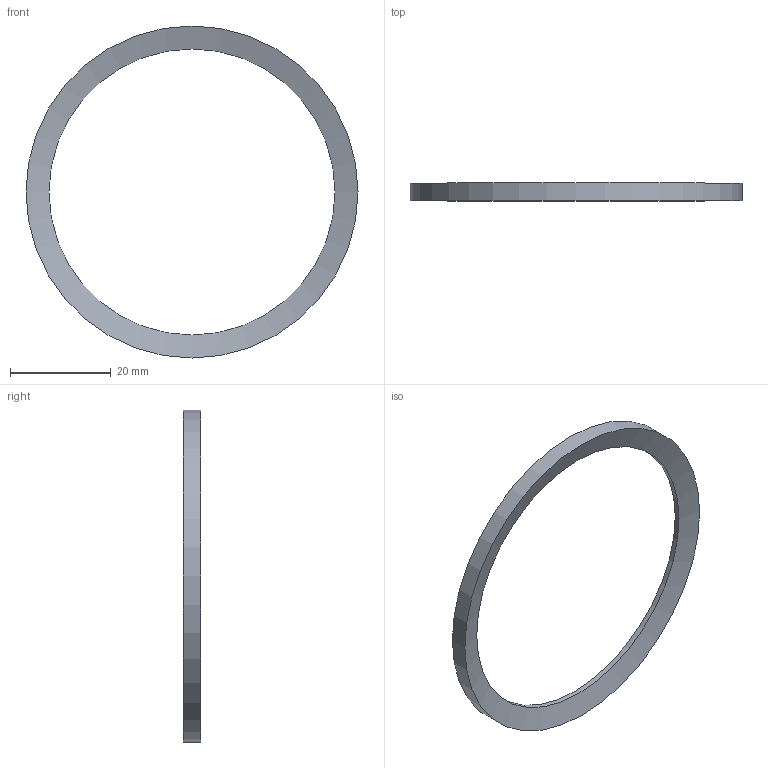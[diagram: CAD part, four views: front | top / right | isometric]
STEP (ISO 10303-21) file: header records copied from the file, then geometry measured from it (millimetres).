
FILE_DESCRIPTION(/* description */ (''),/* implementation_level */ '2;1');
FILE_NAME(/* name */ 'Z:\Geberit\Export\NewStep\363782.stp',/* time_stamp */ '2014-04-01T23:13:54+02:00',/* author */ ('nelson'),/* organization */ (''),/* preprocessor_version */ 'ST-DEVELOPER v15.2',/* originating_system */ 'Autodesk Inventor 2014',/* authorisation */ '');
FILE_SCHEMA (('AUTOMOTIVE_DESIGN { 1 0 10303 214 3 1 1 }'));
Length unit declared in the file: millimetre
Products named in the file (1): 363782
Bounding box: 65.9 x 3.5 x 65.9 mm (x, y, z)
Volume: 2026.6 mm3; surface area: 2729.8 mm2
Topology: 1 solids, 1 shells, 4 faces, 8 edges, 4 vertices
Faces by surface type: cylinder 2, cone 2
Full cylindrical faces by diameter (mm): 56.8 x1, 65.9 x1
Entity records: 113 total; most frequent: DIRECTION 18, CARTESIAN_POINT 13, AXIS2_PLACEMENT_3D 9, EDGE_LOOP 8, ORIENTED_EDGE 8, STYLED_ITEM 5, FACE_BOUND 4, FACE_OUTER_BOUND 4
